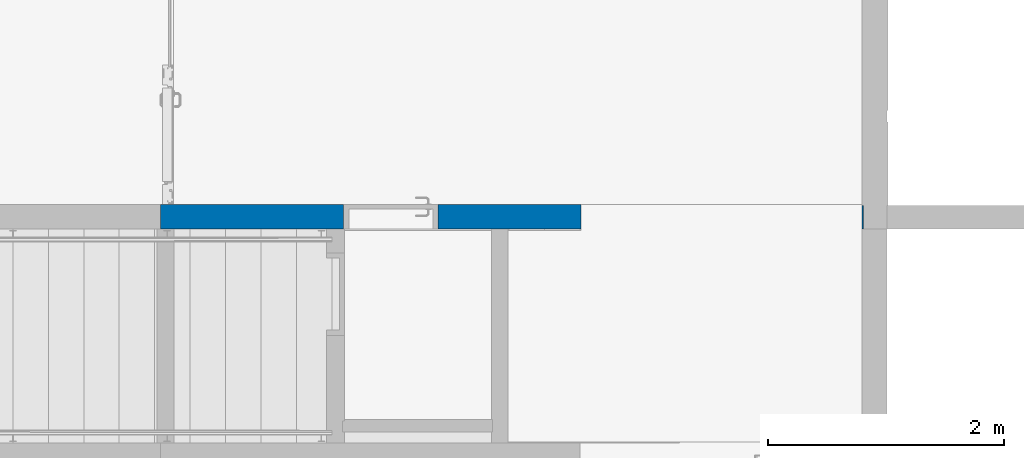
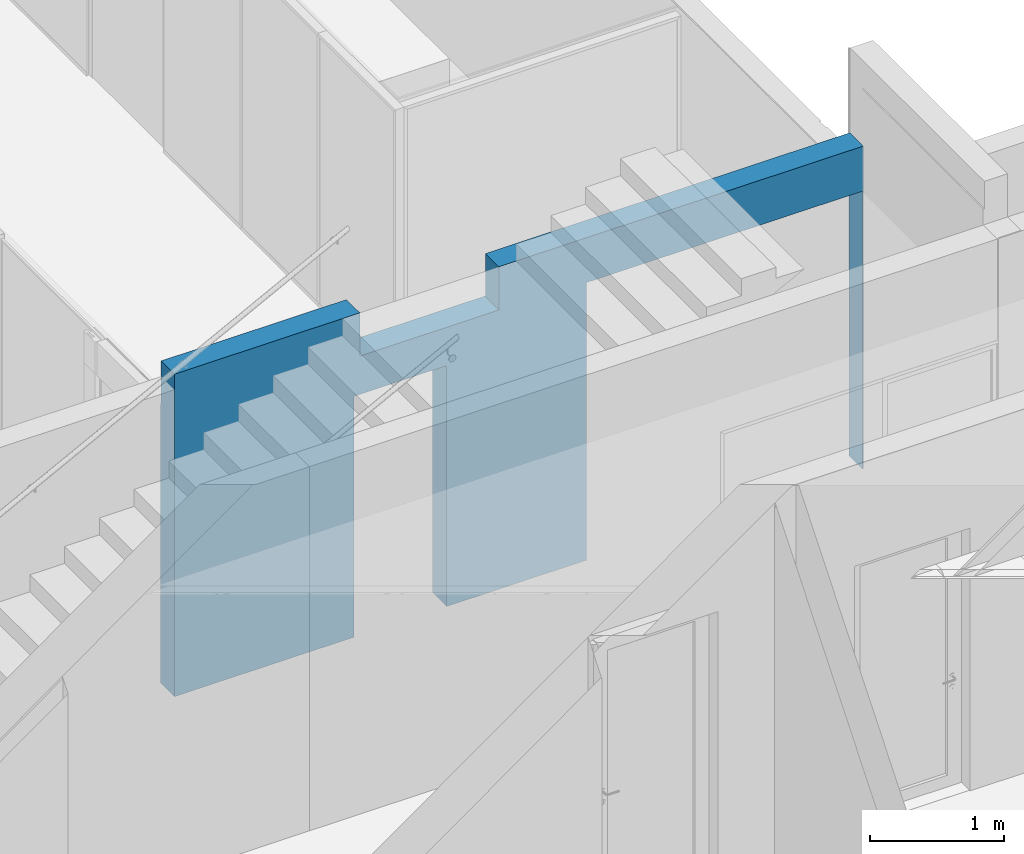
# One storey, part 39 of 79: 1 wall, 2 openings.
"""IFC2X3 building model written with IfcOpenShell, lengths in millimetres."""

from ifc_helpers import new_model, entity, si_unit, converted_unit, derived_unit, money_unit, direction, frame, origin_with_axes, place, context, subcontext, project, spatial, faceted_brep, material, material_list, type_object, element, save


model = new_model("IFC2X3")

# Units and contexts
model_context = context("Model", 3, precision=0.01, world=origin_with_axes(), true_north=direction((0.0, 1.0)))
body_context = subcontext(model_context, "Body", "Model", "MODEL_VIEW")
ifc_project = project(units=[si_unit("LENGTHUNIT", "METRE", prefix="MILLI"), si_unit("AREAUNIT", "SQUARE_METRE"), si_unit("VOLUMEUNIT", "CUBIC_METRE"), converted_unit("PLANEANGLEUNIT", "DEGREE", entity("IfcPlaneAngleMeasure", 0.0174532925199), si_unit("PLANEANGLEUNIT", "RADIAN"), dimensions=[0, 0, 0, 0, 0, 0, 0]), si_unit("SOLIDANGLEUNIT", "STERADIAN"), money_unit("EUR"), converted_unit("TIMEUNIT", "Year", entity("IfcTimeMeasure", 31556926.0), si_unit("TIMEUNIT", "SECOND"), dimensions=[0, 0, 1, 0, 0, 0, 0]), si_unit("MASSUNIT", "GRAM", prefix="KILO"), si_unit("THERMODYNAMICTEMPERATUREUNIT", "DEGREE_CELSIUS"), si_unit("LUMINOUSINTENSITYUNIT", "LUMEN"), si_unit("ENERGYUNIT", "JOULE", prefix="MEGA"), derived_unit("THERMALCONDUCTANCEUNIT", [(si_unit("POWERUNIT", "WATT"), 1), (si_unit("LENGTHUNIT", "METRE"), -1), (si_unit("THERMODYNAMICTEMPERATUREUNIT", "KELVIN"), -1)]), derived_unit("SPECIFICHEATCAPACITYUNIT", [(si_unit("ENERGYUNIT", "JOULE"), 1), (si_unit("MASSUNIT", "GRAM", prefix="KILO"), -1), (si_unit("THERMODYNAMICTEMPERATUREUNIT", "KELVIN"), -1)]), derived_unit("MASSDENSITYUNIT", [(si_unit("MASSUNIT", "GRAM", prefix="KILO"), 1), (si_unit("VOLUMEUNIT", "CUBIC_METRE"), -1)])], contexts=[model_context])

# Site, building, storey
site_placement = place(None, origin_with_axes())
site = spatial("IfcSite", under=ifc_project, at=site_placement, Name="L.Koidula tn 11b", CompositionType="ELEMENT")
building_placement = place(site_placement, origin_with_axes())
building = spatial("IfcBuilding", under=site, at=building_placement, Name="Rakvere Riigigümnaasium", CompositionType="ELEMENT")
storey_placement = place(building_placement, frame((0.0, 0.0, 3720.0), z_axis=(0.0, 0.0, 1.0), x_axis=(1.0, 0.0, 0.0)))
storey = spatial("IfcBuildingStorey", under=building, at=storey_placement, Name="2.korrus +3,72", CompositionType="ELEMENT", Elevation=3720.0)

# Wall, openings
ifc_material_1 = material(Name="siseviimistlus-seinad")
ifc_material_2 = material(Name="Betoon element / plaat")
ifc_material_list = material_list([ifc_material_1, ifc_material_2])
wall_type = type_object("IfcWallType", Name="SS-01-1 210", PredefinedType="NOTDEFINED")
wall_placement = place(storey_placement, frame((41050.0009821, 17110.4555095, 0.0), z_axis=(0.0, 0.0, 1.0), x_axis=(1.0, 0.0, 0.0)))
wall = element("IfcWall", 1, at=wall_placement, inside=storey, type_object=wall_type, material=ifc_material_list, Name="Sisesein", context=body_context, shape_type="Brep", body=[
    faceted_brep([(1549.99902072, 210.0, 2200.0), (1549.99902072, 210.0, 0.0), (0.0, 210.0, 0.0), (0.0, 210.0, 2550.0), (5939.99901133, 210.0, 2550.0), (5939.99901133, 210.0, 2535.0), (3559.97123012, 210.0, 2535.0), (3559.97123012, 210.0, 0.0), (2349.99902072, 210.0, 0.0), (2349.99902072, 210.0, 2200.0), (1549.99902072, 199.999999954, 2200.0), (1549.99902072, 200.0, 0.0), (0.0, 200.0, 0.0), (0.0, 199.999999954, 2550.0), (5939.99901133, 199.999999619, 2550.0), (1599.99901431, 199.999999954, 2550.0), (2799.99901431, 199.999999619, 2550.0), (5939.99901133, 199.999999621, 2535.0), (3559.97123012, 199.999999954, 2535.0), (3559.97123012, 200.0, 0.0), (2349.99902072, 200.0, 0.0), (2349.99902072, 199.999999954, 2200.0)], [[[0, 1, 2, 3, 4, 5, 6, 7, 8, 9]], [[1, 0, 10, 11]], [[1, 11, 12, 2]], [[2, 12, 13, 3]], [[14, 4, 3, 13, 15, 16]], [[5, 4, 14, 17]], [[5, 17, 18, 6]], [[6, 18, 19, 7]], [[20, 8, 7, 19]], [[9, 8, 20, 21]], [[0, 9, 21, 10]], [[21, 20, 19, 18, 17, 14, 16, 15, 13, 12, 11, 10]]]),
    faceted_brep([(1549.99902072, 199.999999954, 2200.0), (1549.99902072, 200.0, 0.0), (0.0, 200.0, 0.0), (0.0, 200.0, 2945.0), (1599.99901431, 199.999999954, 2945.0), (1599.99901431, 199.999999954, 2550.0), (2799.99901431, 199.999999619, 2550.0), (2799.99901431, 199.999999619, 2945.0), (5949.99901683, 200.000000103, 2945.0), (5949.99902151, 200.0, 2802.4514176), (5949.99901133, 200.0, 0.0), (5939.99901133, 200.0, 0.0), (5939.99901133, 199.999999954, 2535.0), (3559.97123012, 199.999999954, 2535.0), (3559.97123012, 200.0, 0.0), (2349.99902072, 200.0, 0.0), (2349.99902072, 199.999999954, 2200.0), (1549.99902072, -3.80961040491e-07, 2200.0), (1549.99902072, 0.0, 0.0), (0.0, 0.0, 0.0), (0.0, 0.0, 2945.0), (1599.99901431, -3.80961040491e-07, 2945.0), (1599.99901431, -3.80961040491e-07, 2550.0), (2799.99901431, -3.80961040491e-07, 2550.0), (2799.99901431, -3.80961040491e-07, 2945.0), (5949.99901683, 0.0, 2945.0), (5949.99902321, 0.0, 2549.99998083), (5949.99901133, 0.0, 0.0), (5939.99901133, 0.0, 0.0), (5939.99901133, -3.80961040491e-07, 2535.0), (3559.97123012, -3.80961040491e-07, 2535.0), (3559.97123012, 0.0, 0.0), (2349.99902072, 0.0, 0.0), (2349.99902072, -3.80961040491e-07, 2200.0)], [[[0, 1, 2, 3, 4, 5, 6, 7, 8, 9, 10, 11, 12, 13, 14, 15, 16]], [[1, 0, 17, 18]], [[1, 18, 19, 2]], [[19, 20, 3, 2]], [[3, 20, 21, 4]], [[4, 21, 22, 5]], [[22, 23, 6, 5]], [[23, 24, 7, 6]], [[25, 8, 7, 24]], [[8, 25, 26, 27, 10, 9]], [[11, 10, 27, 28]], [[11, 28, 29, 12]], [[12, 29, 30, 13]], [[13, 30, 31, 14]], [[32, 15, 14, 31]], [[16, 15, 32, 33]], [[0, 16, 33, 17]], [[33, 32, 31, 30, 29, 28, 27, 26, 25, 24, 23, 22, 21, 20, 19, 18, 17]]]),
])
opening_1_placement = place(wall_placement, frame((1949.99902072, 0.0, 0.0), z_axis=(0.0, 0.0, 1.0), x_axis=(1.0, 0.0, 0.0)))
element("IfcOpeningElement", 2, at=opening_1_placement, cuts=wall, Name="SU-056", context=body_context, shape_type="Brep", body=[
    faceted_brep([(-400.0, 420.0, 2200.0), (-400.0, 420.0, 0.0), (-400.0, -210.0, 0.0), (-400.0, -210.0, 2200.0), (400.0, 420.0, 2200.0), (400.0, 420.0, 0.0), (400.0, -210.0, 0.0), (400.0, -210.0, 2200.0)], [[[0, 1, 2, 3]], [[0, 4, 5, 1]], [[1, 5, 6, 2]], [[3, 2, 6, 7]], [[4, 0, 3, 7]], [[5, 4, 7, 6]]]),
])
opening_2_placement = place(wall_placement, frame((4749.98512073, 0.0, 0.0), z_axis=(0.0, 0.0, 1.0), x_axis=(1.0, 0.0, 0.0)))
element("IfcOpeningElement", 3, at=opening_2_placement, cuts=wall, Name="ava", context=body_context, shape_type="Brep", body=[
    faceted_brep([(1190.01389061, 210.0, 0.0), (1190.01389061, 210.0, 2535.0), (1190.01389061, -420.0, 2535.0), (1190.01389061, -420.0, 0.0), (-1190.01389061, 210.0, 0.0), (-1190.01389061, 210.0, 2535.0), (-1190.01389061, -420.0, 2535.0), (-1190.01389061, -420.0, 0.0)], [[[0, 1, 2, 3]], [[0, 4, 5, 1]], [[1, 5, 6, 2]], [[3, 2, 6, 7]], [[4, 0, 3, 7]], [[5, 4, 7, 6]]]),
])

save(model, "model.ifc")
